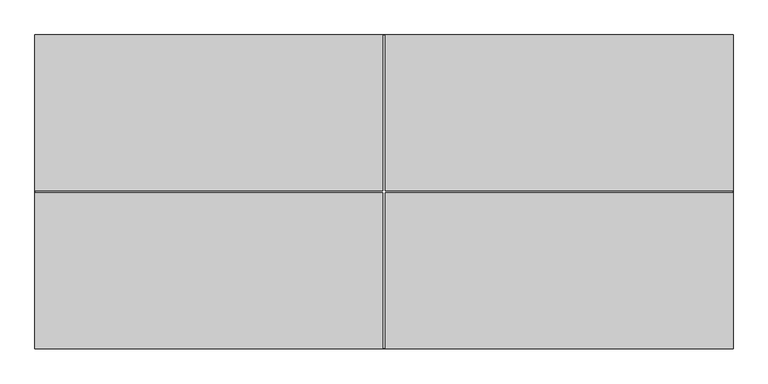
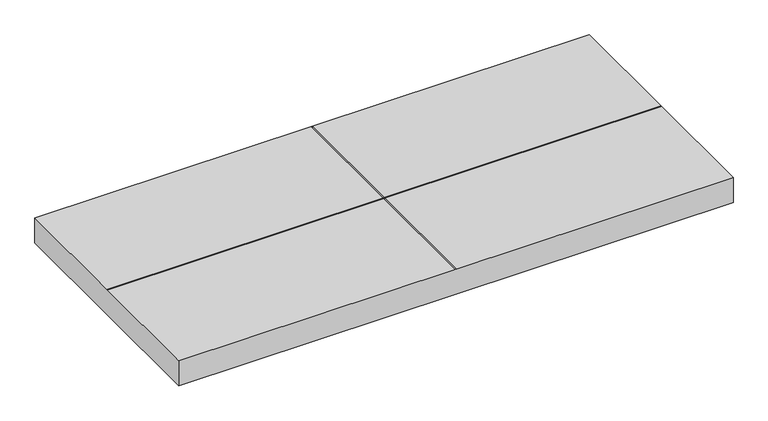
"""IFC4 building model written with IfcOpenShell, lengths in millimetres: furniture geometry, Steelcase - Universal Storage - Cushion Top - for Lateral File : Proud Steel Front - 18 7/8D x 42W."""

from ifc_helpers import new_model, si_unit, frame, origin, place, context, project, spatial, polyline, outline, extrude, source, transform, mapped, element, save


def furniture_f34540e1(model_context):
    return source(origin(), model_context, "Body", "SweptSolid", [
        extrude(outline(polyline([(1066.8, 0.0), (1066.8, -479.552), (0.0, -479.552), (0.0, 0.0), (1066.8, 0.0)]), holes=[polyline([(0.889, -238.887), (0.889, -240.665), (532.511, -240.665), (532.511, -478.6630015), (534.289, -478.6630015), (534.289, -240.665), (1065.9109651, -240.665), (1065.9109651, -238.887), (534.289, -238.887), (534.289, -0.889), (532.511, -0.889), (532.511, -238.887), (0.889, -238.887)])]), frame((0.0, 0.0, 533.4), z_axis=(0.0, 0.0, 1.0), x_axis=(1.0, 0.0, 0.0)), (0.0, 0.0, 1.0), 50.7999971),
    ])


if __name__ == "__main__":
    model = new_model("IFC4")
    model_context = context("Model", 3, world=origin())
    ifc_project = project(units=[si_unit("LENGTHUNIT", "METRE", prefix="MILLI")], contexts=[model_context])
    site = spatial("IfcSite", under=ifc_project)
    building = spatial("IfcBuilding", under=site)
    placement = place(None, origin())
    furniture_shape = furniture_f34540e1(model_context)
    element("IfcFurniture", 1, ObjectType="Steelcase - Universal Storage - Cushion Top - for Lateral File : Proud Steel Front - 18 7/8D x 42W", at=placement, inside=building, context=model_context, shape_type="MappedRepresentation", body=[
        mapped(furniture_shape, transform((0.0, 0.0, 0.0), x_axis=(1.0, 0.0, 0.0), y_axis=(0.0, 1.0, 0.0), z_axis=(0.0, 0.0, 1.0))),
    ])
    save(model, "model.ifc")
